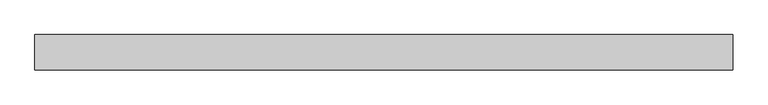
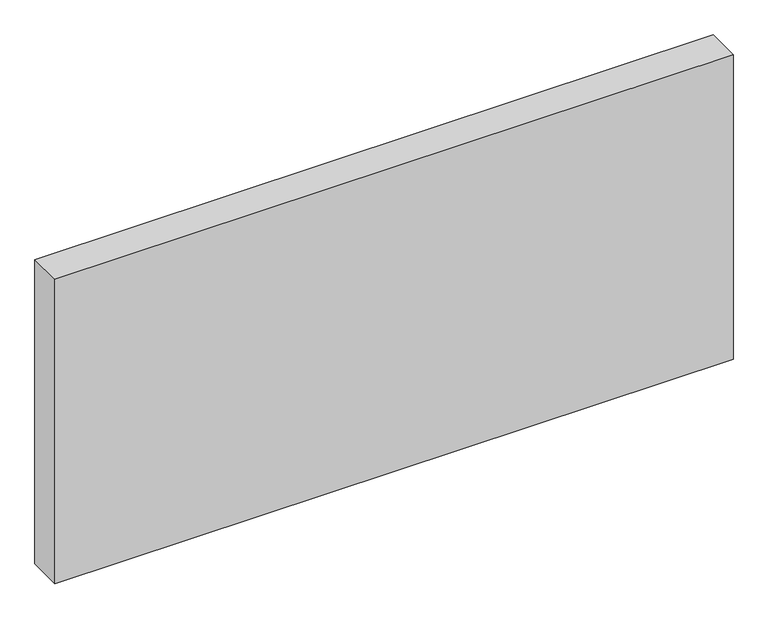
"""IFC4 building model written with IfcOpenShell, lengths in millimetres: plate geometry, Системная панель : Алюкобонд серый."""

from ifc_helpers import new_model, si_unit, origin, origin_with_axes, place, context, project, spatial, polyline, outline, extrude, source, transform, mapped, element, save


def plate_84212e6f(model_context):
    return source(origin(), model_context, "Body", "SweptSolid", [
        extrude(outline(polyline([(590.0, -10.5), (-590.0, -10.5), (-590.0, 49.5), (590.0, 49.5), (590.0, -10.5)])), origin_with_axes(), (0.0, 0.0, 1.0), 560.0),
    ])


if __name__ == "__main__":
    model = new_model("IFC4")
    model_context = context("Model", 3, world=origin())
    ifc_project = project(units=[si_unit("LENGTHUNIT", "METRE", prefix="MILLI")], contexts=[model_context])
    site = spatial("IfcSite", under=ifc_project)
    building = spatial("IfcBuilding", under=site)
    placement = place(None, origin())
    plate_shape = plate_84212e6f(model_context)
    element("IfcPlate", 1, ObjectType="Системная панель : Алюкобонд серый", at=placement, inside=building, context=model_context, shape_type="MappedRepresentation", body=[
        mapped(plate_shape, transform((0.0, 0.0, 0.0), x_axis=(1.0, 0.0, 0.0), y_axis=(0.0, 1.0, 0.0), z_axis=(0.0, 0.0, 1.0))),
    ])
    save(model, "model.ifc")
